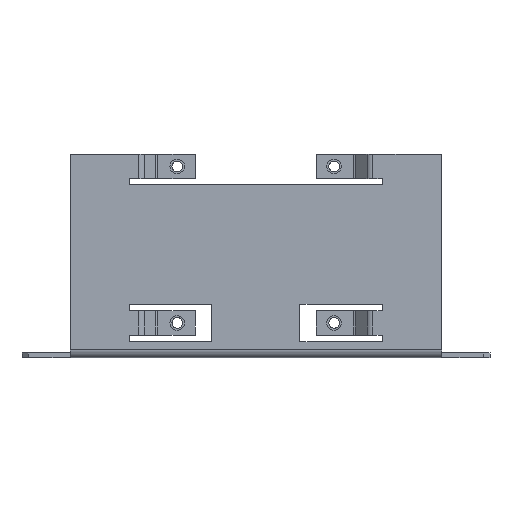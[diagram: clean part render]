
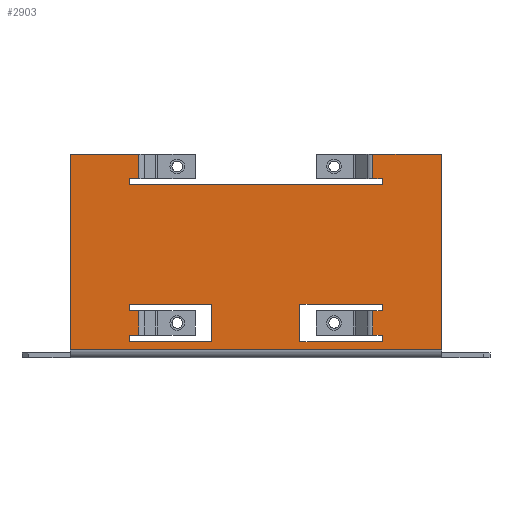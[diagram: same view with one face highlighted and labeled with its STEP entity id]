
A CAD part, front view. The second image highlights one B-rep face of the part: STEP entity #2903.
In plain terms, the highlighted planar face has unit normal (0, -1, 0).
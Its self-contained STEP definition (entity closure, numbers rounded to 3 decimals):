
#2389=CARTESIAN_POINT('',(57.5,-32.5,2.5));
#2390=VERTEX_POINT('',#2389);
#2398=CARTESIAN_POINT('',(-57.5,-32.5,2.5));
#2399=VERTEX_POINT('',#2398);
#2400=CARTESIAN_POINT('',(57.5,-32.5,2.5));
#2401=DIRECTION('',(-1.0,0.0,0.0));
#2402=VECTOR('',#2401,115.);
#2403=LINE('',#2400,#2402);
#2404=EDGE_CURVE('',#2390,#2399,#2403,.T.);
#2677=CARTESIAN_POINT('',(72.5,-32.5,1.5));
#2678=DIRECTION('',(0.0,1.0,0.0));
#2679=DIRECTION('',(0.0,0.0,1.0));
#2680=AXIS2_PLACEMENT_3D('',#2677,#2678,#2679);
#2681=PLANE('',#2680);
#2682=CARTESIAN_POINT('',(-39.325,-32.5,53.5));
#2683=VERTEX_POINT('',#2682);
#2684=CARTESIAN_POINT('',(39.125,-32.5,53.5));
#2685=VERTEX_POINT('',#2684);
#2686=CARTESIAN_POINT('',(-39.325,-32.5,53.5));
#2687=DIRECTION('',(1.0,0.0,0.0));
#2688=VECTOR('',#2687,78.45);
#2689=LINE('',#2686,#2688);
#2690=EDGE_CURVE('',#2683,#2685,#2689,.T.);
#2691=ORIENTED_EDGE('',*,*,#2690,.F.);
#2692=CARTESIAN_POINT('',(-39.325,-32.5,55.5));
#2693=VERTEX_POINT('',#2692);
#2694=CARTESIAN_POINT('',(-39.325,-32.5,55.5));
#2695=DIRECTION('',(0.0,0.0,-1.0));
#2696=VECTOR('',#2695,2.0);
#2697=LINE('',#2694,#2696);
#2698=EDGE_CURVE('',#2693,#2683,#2697,.T.);
#2699=ORIENTED_EDGE('',*,*,#2698,.F.);
#2700=CARTESIAN_POINT('',(-36.361,-32.5,55.5));
#2701=VERTEX_POINT('',#2700);
#2702=CARTESIAN_POINT('',(-39.325,-32.5,55.5));
#2703=DIRECTION('',(1.0,0.0,0.0));
#2704=VECTOR('',#2703,2.964);
#2705=LINE('',#2702,#2704);
#2706=EDGE_CURVE('',#2693,#2701,#2705,.T.);
#2707=ORIENTED_EDGE('',*,*,#2706,.T.);
#2708=CARTESIAN_POINT('',(-36.361,-32.5,63.));
#2709=VERTEX_POINT('',#2708);
#2710=CARTESIAN_POINT('',(-36.361,-32.5,55.5));
#2711=DIRECTION('',(0.0,0.0,1.0));
#2712=VECTOR('',#2711,7.5);
#2713=LINE('',#2710,#2712);
#2714=EDGE_CURVE('',#2701,#2709,#2713,.T.);
#2715=ORIENTED_EDGE('',*,*,#2714,.T.);
#2716=CARTESIAN_POINT('',(-57.5,-32.5,63.));
#2717=VERTEX_POINT('',#2716);
#2718=CARTESIAN_POINT('',(-36.361,-32.5,63.));
#2719=DIRECTION('',(-1.0,0.0,0.0));
#2720=VECTOR('',#2719,21.139);
#2721=LINE('',#2718,#2720);
#2722=EDGE_CURVE('',#2709,#2717,#2721,.T.);
#2723=ORIENTED_EDGE('',*,*,#2722,.T.);
#2724=CARTESIAN_POINT('',(-57.5,-32.5,63.));
#2725=DIRECTION('',(0.0,0.0,-1.0));
#2726=VECTOR('',#2725,60.5);
#2727=LINE('',#2724,#2726);
#2728=EDGE_CURVE('',#2717,#2399,#2727,.T.);
#2729=ORIENTED_EDGE('',*,*,#2728,.T.);
#2730=ORIENTED_EDGE('',*,*,#2404,.F.);
#2731=CARTESIAN_POINT('',(57.5,-32.5,63.));
#2732=VERTEX_POINT('',#2731);
#2733=CARTESIAN_POINT('',(57.5,-32.5,63.));
#2734=DIRECTION('',(0.0,0.0,-1.0));
#2735=VECTOR('',#2734,60.5);
#2736=LINE('',#2733,#2735);
#2737=EDGE_CURVE('',#2732,#2390,#2736,.T.);
#2738=ORIENTED_EDGE('',*,*,#2737,.F.);
#2739=CARTESIAN_POINT('',(36.161,-32.5,63.));
#2740=VERTEX_POINT('',#2739);
#2741=CARTESIAN_POINT('',(57.5,-32.5,63.));
#2742=DIRECTION('',(-1.0,0.0,0.0));
#2743=VECTOR('',#2742,21.339);
#2744=LINE('',#2741,#2743);
#2745=EDGE_CURVE('',#2732,#2740,#2744,.T.);
#2746=ORIENTED_EDGE('',*,*,#2745,.T.);
#2747=CARTESIAN_POINT('',(36.161,-32.5,55.5));
#2748=VERTEX_POINT('',#2747);
#2749=CARTESIAN_POINT('',(36.161,-32.5,55.5));
#2750=DIRECTION('',(0.0,0.0,1.0));
#2751=VECTOR('',#2750,7.5);
#2752=LINE('',#2749,#2751);
#2753=EDGE_CURVE('',#2748,#2740,#2752,.T.);
#2754=ORIENTED_EDGE('',*,*,#2753,.F.);
#2755=CARTESIAN_POINT('',(39.125,-32.5,55.5));
#2756=VERTEX_POINT('',#2755);
#2757=CARTESIAN_POINT('',(39.125,-32.5,55.5));
#2758=DIRECTION('',(-1.0,0.0,0.0));
#2759=VECTOR('',#2758,2.964);
#2760=LINE('',#2757,#2759);
#2761=EDGE_CURVE('',#2756,#2748,#2760,.T.);
#2762=ORIENTED_EDGE('',*,*,#2761,.F.);
#2763=CARTESIAN_POINT('',(39.125,-32.5,53.5));
#2764=DIRECTION('',(0.0,0.0,1.0));
#2765=VECTOR('',#2764,2.0);
#2766=LINE('',#2763,#2765);
#2767=EDGE_CURVE('',#2685,#2756,#2766,.T.);
#2768=ORIENTED_EDGE('',*,*,#2767,.F.);
#2769=EDGE_LOOP('',(#2691,#2699,#2707,#2715,#2723,#2729,#2730,#2738,#2746,#2754,#2762,#2768));
#2770=FACE_OUTER_BOUND('',#2769,.T.);
#2771=CARTESIAN_POINT('',(13.625,-32.5,5.));
#2772=VERTEX_POINT('',#2771);
#2773=CARTESIAN_POINT('',(39.125,-32.5,5.));
#2774=VERTEX_POINT('',#2773);
#2775=CARTESIAN_POINT('',(13.625,-32.5,5.));
#2776=DIRECTION('',(1.0,0.0,0.0));
#2777=VECTOR('',#2776,25.5);
#2778=LINE('',#2775,#2777);
#2779=EDGE_CURVE('',#2772,#2774,#2778,.T.);
#2780=ORIENTED_EDGE('',*,*,#2779,.F.);
#2781=CARTESIAN_POINT('',(13.625,-32.5,16.5));
#2782=VERTEX_POINT('',#2781);
#2783=CARTESIAN_POINT('',(13.625,-32.5,16.5));
#2784=DIRECTION('',(0.0,0.0,-1.0));
#2785=VECTOR('',#2784,11.5);
#2786=LINE('',#2783,#2785);
#2787=EDGE_CURVE('',#2782,#2772,#2786,.T.);
#2788=ORIENTED_EDGE('',*,*,#2787,.F.);
#2789=CARTESIAN_POINT('',(39.125,-32.5,16.5));
#2790=VERTEX_POINT('',#2789);
#2791=CARTESIAN_POINT('',(39.125,-32.5,16.5));
#2792=DIRECTION('',(-1.0,0.0,0.0));
#2793=VECTOR('',#2792,25.5);
#2794=LINE('',#2791,#2793);
#2795=EDGE_CURVE('',#2790,#2782,#2794,.T.);
#2796=ORIENTED_EDGE('',*,*,#2795,.F.);
#2797=CARTESIAN_POINT('',(39.125,-32.5,14.5));
#2798=VERTEX_POINT('',#2797);
#2799=CARTESIAN_POINT('',(39.125,-32.5,14.5));
#2800=DIRECTION('',(0.0,0.0,1.0));
#2801=VECTOR('',#2800,2.);
#2802=LINE('',#2799,#2801);
#2803=EDGE_CURVE('',#2798,#2790,#2802,.T.);
#2804=ORIENTED_EDGE('',*,*,#2803,.F.);
#2805=CARTESIAN_POINT('',(36.161,-32.5,14.5));
#2806=VERTEX_POINT('',#2805);
#2807=CARTESIAN_POINT('',(39.125,-32.5,14.5));
#2808=DIRECTION('',(-1.0,0.0,0.0));
#2809=VECTOR('',#2808,2.964);
#2810=LINE('',#2807,#2809);
#2811=EDGE_CURVE('',#2798,#2806,#2810,.T.);
#2812=ORIENTED_EDGE('',*,*,#2811,.T.);
#2813=CARTESIAN_POINT('',(36.161,-32.5,7.));
#2814=VERTEX_POINT('',#2813);
#2815=CARTESIAN_POINT('',(36.161,-32.5,7.));
#2816=DIRECTION('',(0.0,0.0,1.0));
#2817=VECTOR('',#2816,7.5);
#2818=LINE('',#2815,#2817);
#2819=EDGE_CURVE('',#2814,#2806,#2818,.T.);
#2820=ORIENTED_EDGE('',*,*,#2819,.F.);
#2821=CARTESIAN_POINT('',(39.125,-32.5,7.));
#2822=VERTEX_POINT('',#2821);
#2823=CARTESIAN_POINT('',(39.125,-32.5,7.));
#2824=DIRECTION('',(-1.0,0.0,0.0));
#2825=VECTOR('',#2824,2.964);
#2826=LINE('',#2823,#2825);
#2827=EDGE_CURVE('',#2822,#2814,#2826,.T.);
#2828=ORIENTED_EDGE('',*,*,#2827,.F.);
#2829=CARTESIAN_POINT('',(39.125,-32.5,5.));
#2830=DIRECTION('',(0.0,0.0,1.0));
#2831=VECTOR('',#2830,2.0);
#2832=LINE('',#2829,#2831);
#2833=EDGE_CURVE('',#2774,#2822,#2832,.T.);
#2834=ORIENTED_EDGE('',*,*,#2833,.F.);
#2835=EDGE_LOOP('',(#2780,#2788,#2796,#2804,#2812,#2820,#2828,#2834));
#2836=FACE_BOUND('',#2835,.T.);
#2837=CARTESIAN_POINT('',(-39.325,-32.5,5.));
#2838=VERTEX_POINT('',#2837);
#2839=CARTESIAN_POINT('',(-13.825,-32.5,5.));
#2840=VERTEX_POINT('',#2839);
#2841=CARTESIAN_POINT('',(-39.325,-32.5,5.));
#2842=DIRECTION('',(1.0,0.0,0.0));
#2843=VECTOR('',#2842,25.5);
#2844=LINE('',#2841,#2843);
#2845=EDGE_CURVE('',#2838,#2840,#2844,.T.);
#2846=ORIENTED_EDGE('',*,*,#2845,.F.);
#2847=CARTESIAN_POINT('',(-39.325,-32.5,7.));
#2848=VERTEX_POINT('',#2847);
#2849=CARTESIAN_POINT('',(-39.325,-32.5,7.));
#2850=DIRECTION('',(0.0,0.0,-1.0));
#2851=VECTOR('',#2850,2.0);
#2852=LINE('',#2849,#2851);
#2853=EDGE_CURVE('',#2848,#2838,#2852,.T.);
#2854=ORIENTED_EDGE('',*,*,#2853,.F.);
#2855=CARTESIAN_POINT('',(-36.361,-32.5,7.));
#2856=VERTEX_POINT('',#2855);
#2857=CARTESIAN_POINT('',(-39.325,-32.5,7.));
#2858=DIRECTION('',(1.0,0.0,0.0));
#2859=VECTOR('',#2858,2.964);
#2860=LINE('',#2857,#2859);
#2861=EDGE_CURVE('',#2848,#2856,#2860,.T.);
#2862=ORIENTED_EDGE('',*,*,#2861,.T.);
#2863=CARTESIAN_POINT('',(-36.361,-32.5,14.5));
#2864=VERTEX_POINT('',#2863);
#2865=CARTESIAN_POINT('',(-36.361,-32.5,7.));
#2866=DIRECTION('',(0.0,0.0,1.0));
#2867=VECTOR('',#2866,7.5);
#2868=LINE('',#2865,#2867);
#2869=EDGE_CURVE('',#2856,#2864,#2868,.T.);
#2870=ORIENTED_EDGE('',*,*,#2869,.T.);
#2871=CARTESIAN_POINT('',(-39.325,-32.5,14.5));
#2872=VERTEX_POINT('',#2871);
#2873=CARTESIAN_POINT('',(-39.325,-32.5,14.5));
#2874=DIRECTION('',(1.0,0.0,0.0));
#2875=VECTOR('',#2874,2.964);
#2876=LINE('',#2873,#2875);
#2877=EDGE_CURVE('',#2872,#2864,#2876,.T.);
#2878=ORIENTED_EDGE('',*,*,#2877,.F.);
#2879=CARTESIAN_POINT('',(-39.325,-32.5,16.5));
#2880=VERTEX_POINT('',#2879);
#2881=CARTESIAN_POINT('',(-39.325,-32.5,16.5));
#2882=DIRECTION('',(0.0,0.0,-1.0));
#2883=VECTOR('',#2882,2.);
#2884=LINE('',#2881,#2883);
#2885=EDGE_CURVE('',#2880,#2872,#2884,.T.);
#2886=ORIENTED_EDGE('',*,*,#2885,.F.);
#2887=CARTESIAN_POINT('',(-13.825,-32.5,16.5));
#2888=VERTEX_POINT('',#2887);
#2889=CARTESIAN_POINT('',(-13.825,-32.5,16.5));
#2890=DIRECTION('',(-1.0,0.0,0.0));
#2891=VECTOR('',#2890,25.5);
#2892=LINE('',#2889,#2891);
#2893=EDGE_CURVE('',#2888,#2880,#2892,.T.);
#2894=ORIENTED_EDGE('',*,*,#2893,.F.);
#2895=CARTESIAN_POINT('',(-13.825,-32.5,5.));
#2896=DIRECTION('',(0.0,0.0,1.0));
#2897=VECTOR('',#2896,11.5);
#2898=LINE('',#2895,#2897);
#2899=EDGE_CURVE('',#2840,#2888,#2898,.T.);
#2900=ORIENTED_EDGE('',*,*,#2899,.F.);
#2901=EDGE_LOOP('',(#2846,#2854,#2862,#2870,#2878,#2886,#2894,#2900));
#2902=FACE_BOUND('',#2901,.T.);
#2903=ADVANCED_FACE('',(#2770,#2836,#2902),#2681,.F.);
